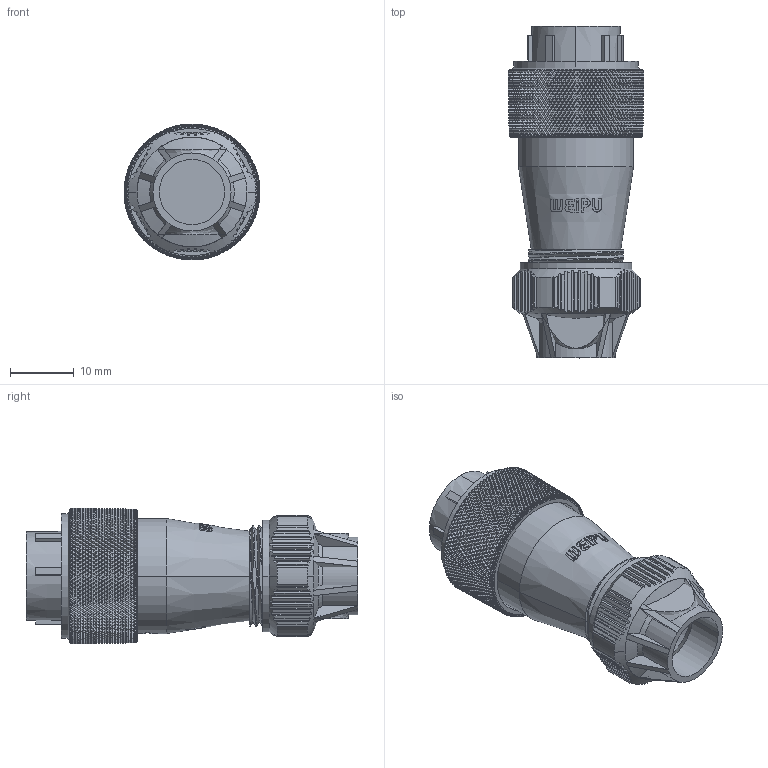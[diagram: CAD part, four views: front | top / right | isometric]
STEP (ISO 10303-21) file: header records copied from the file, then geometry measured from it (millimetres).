
FILE_DESCRIPTION((''),'2;1');
FILE_NAME('WF16K2TE','2019-11-26T',('Administrator'),(''),'CREO PARAMETRIC BY PTC INC, 2016130','CREO PARAMETRIC BY PTC INC, 2016130','');
FILE_SCHEMA(('CONFIG_CONTROL_DESIGN'));
Products named in the file (1): WF16K2TE
Bounding box: 21.25 x 51.9 x 21.25 mm (x, y, z)
Volume: 9450.5 mm3; surface area: 8400.3 mm2
Topology: 2 solids, 6 shells, 15797 faces, 34777 edges, 19003 vertices
Faces by surface type: bspline 8821, cylinder 4555, cone 2163, plane 223, extrusion 31, torus 4
Entity records: 656179 total; most frequent: CARTESIAN_POINT 399143, ORIENTED_EDGE 69480, EDGE_CURVE 34777, B_SPLINE_CURVE_WITH_KNOTS 27625, DIRECTION 21508, VERTEX_POINT 19003, EDGE_LOOP 15824, FACE_OUTER_BOUND 15797
